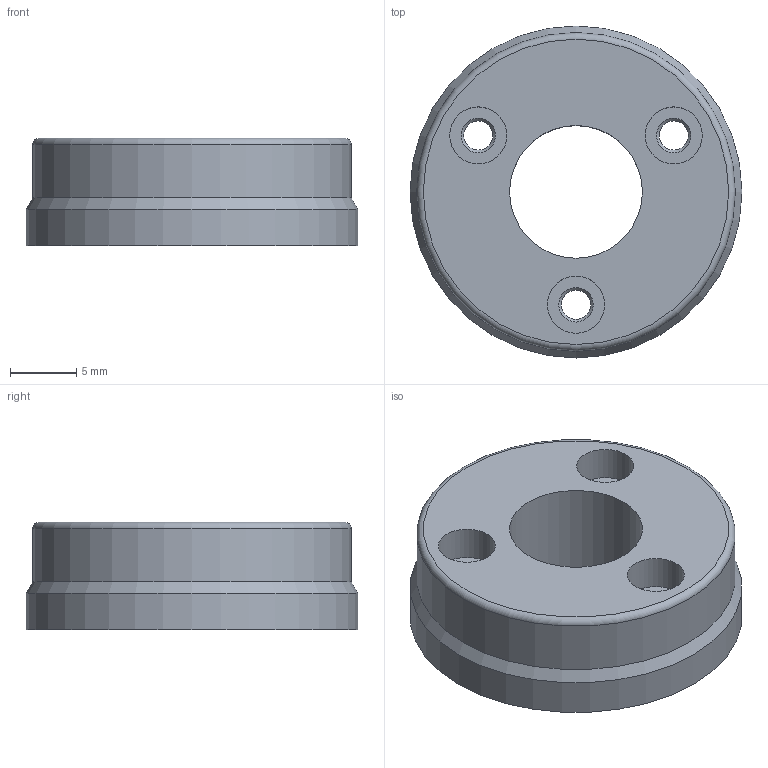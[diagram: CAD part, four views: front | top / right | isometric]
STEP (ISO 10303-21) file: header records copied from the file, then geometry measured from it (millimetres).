
FILE_DESCRIPTION(/* description */ (''),/* implementation_level */ '2;1');
FILE_NAME(/* name */ '26-1R_flange_a.stp',/* time_stamp */ '2019-07-10T10:13:49+02:00',/* author */ ('DR. FRITZ FAULHABER GmbH & Co. KG'),/* organization */ ('DR. FRITZ FAULHABER GmbH & Co. KG'),/* preprocessor_version */ 'ST-DEVELOPER v16.7',/* originating_system */ 'SIEMENS PLM Software NX 12.0',/* authorisation */ '');
FILE_SCHEMA (('AUTOMOTIVE_DESIGN { 1 0 10303 214 3 1 1 1 }'));
Bounding box: 25 x 25 x 8.1 mm (x, y, z)
Volume: 2969.5 mm3; surface area: 1849.7 mm2
Topology: 1 solids, 1 shells, 19 faces, 38 edges, 24 vertices
Faces by surface type: cylinder 9, plane 5, cone 4, torus 1
Full cylindrical faces by diameter (mm): 2.2 x3, 4.3 x3, 10 x1, 24 x1, 25 x1
Entity records: 454 total; most frequent: DRCTN 84, CRTPNT 64, FCBND 44, EDGLP 44, ORNEDG 44, A2PL3D 42, VRTPNT 22, EDGCRV 22
